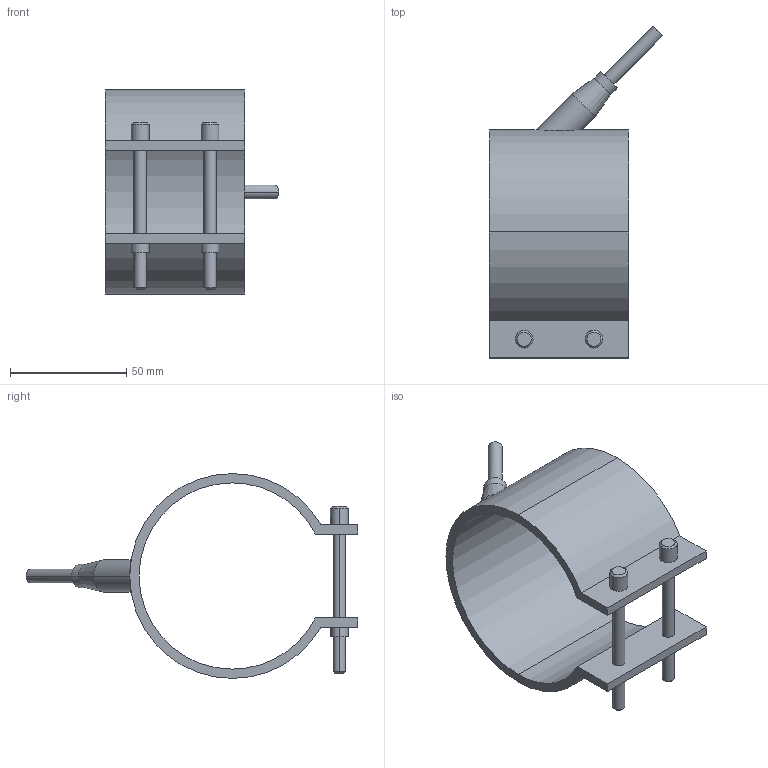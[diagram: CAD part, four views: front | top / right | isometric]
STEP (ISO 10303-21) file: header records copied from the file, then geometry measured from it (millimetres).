
FILE_DESCRIPTION(('CATIA V5 STEP Exchange'),'2;1');
FILE_NAME('C:\Users\Utente\Desktop\IO LAVORO\3D X SITO CF\X SITO\PLASTICA\RF1\29080060.stp','2021-03-29T18:07:49+00:00',('none'),('none'),'CATIA Version 5 Release 20 GA (IN-10)','CATIA V5 STEP AP203','none');
FILE_SCHEMA(('CONFIG_CONTROL_DESIGN'));
Length unit declared in the file: millimetre
Products named in the file (1): 29080060
Bounding box: 74.55 x 142.55 x 88 mm (x, y, z)
Volume: 69704.4 mm3; surface area: 37136.3 mm2
Topology: 1 solids, 1 shells, 54 faces, 123 edges, 79 vertices
Faces by surface type: cylinder 28, plane 16, cone 10
Entity records: 1740 total; most frequent: CARTESIAN_POINT 510, ORIENTED_EDGE 246, DIRECTION 212, EDGE_CURVE 123, AXIS2_PLACEMENT_3D 105, VERTEX_POINT 79, EDGE_LOOP 66, VECTOR 56
